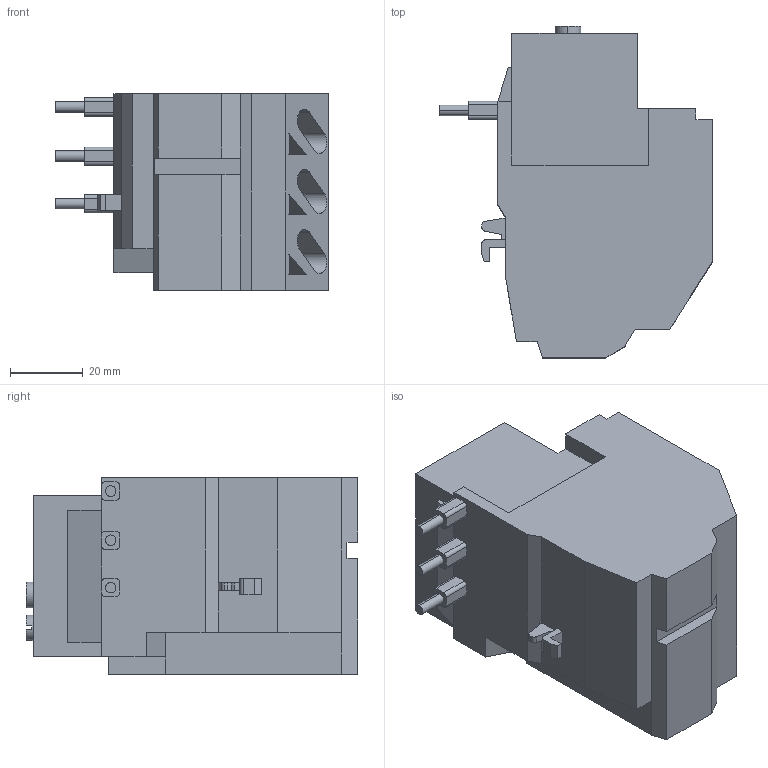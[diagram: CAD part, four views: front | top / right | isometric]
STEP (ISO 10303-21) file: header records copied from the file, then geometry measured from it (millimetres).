
FILE_DESCRIPTION (( 'STEP AP203' ), '1' );
FILE_NAME ('ﾐﾒﾋ-2053ﾄ-2-63ﾀ-(25-32ﾀ)-ﾓﾕﾋ4 (110752).STEP', '2015-12-17T10:31:53', ( '' ), ( '' ), 'SwSTEP 2.0', 'SolidWorks 2012', '' );
FILE_SCHEMA (( 'CONFIG_CONTROL_DESIGN' ));
Length unit declared in the file: millimetre
Products named in the file (1): ﾐﾒﾋ-2053ﾄ-2-63ﾀ-(25-32ﾀ)-ﾓﾕﾋ4 (110752)
Bounding box: 74.8 x 91 x 54 mm (x, y, z)
Volume: 195373.2 mm3; surface area: 32067.2 mm2
Topology: 1 solids, 1 shells, 207 faces, 539 edges, 353 vertices
Faces by surface type: plane 155, cylinder 52
Entity records: 6373 total; most frequent: CARTESIAN_POINT 1127, ORIENTED_EDGE 1078, DIRECTION 1049, EDGE_CURVE 539, LINE 427, VECTOR 427, VERTEX_POINT 353, AXIS2_PLACEMENT_3D 311
